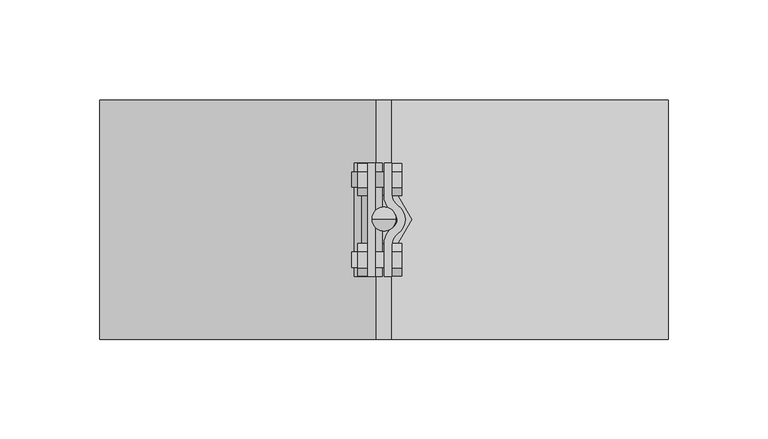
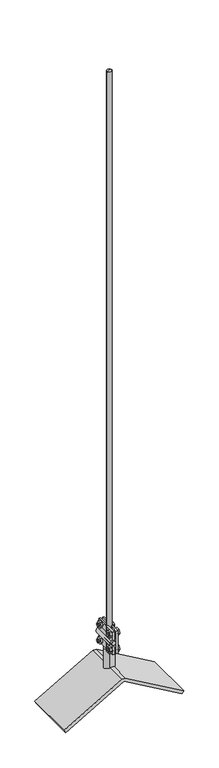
"""IFC4 building model written with IfcOpenShell, lengths in millimetres: proxy geometry, КНС_МолниеприемникКоньковыйСУгловымЗажимом_DKC : NL6150_Алюминий_1.5м."""

from ifc_helpers import new_model, si_unit, point, frame, frame_2d, origin, origin_with_axes, place, context, project, spatial, polyline, circle_curve, trimmed, segment, composite_curve, outline, extrude, faceted_brep, source, transform, mapped, element, save
from ifc_brep_helpers import plane_surface, cylinder_surface, revolved_surface, advanced_brep


def security_devices_5422cca0(model_context):
    return source(origin(), model_context, "Body", "SolidModel", [
        extrude(outline(composite_curve([segment(trimmed(circle_curve(frame_2d((10.789241, 12.6812156)), 6.789241), [point((4.0, 12.6812156))], [point((6.8983492, 7.1175159))], True, "CARTESIAN"), True, "CONTINUOUS"), segment(trimmed(circle_curve(frame_2d((1.920819, 0.0)), 8.6853232), [point((6.8983492, 7.1175159))], [point((6.9859541, -7.0554409))], False, "CARTESIAN"), True, "CONTINUOUS"), segment(trimmed(circle_curve(frame_2d((11.1637095, -12.8748131)), 7.1637095), [point((6.9859541, -7.0554409))], [point((4.0, -12.8748131))], True, "CARTESIAN"), True, "CONTINUOUS"), segment(polyline([(4.0, -12.8748131), (4.0, -28.5), (0.0, -28.5), (0.0, -12.5161006)]), True, "CONTINUOUS"), segment(trimmed(circle_curve(frame_2d((10.4743481, -12.5161006)), 10.4743481), [point((0.0, -12.5161006))], [point((4.5644151, -3.8682881))], False, "CARTESIAN"), True, "CONTINUOUS"), segment(trimmed(circle_curve(frame_2d((1.920819, 0.0)), 4.6853232), [point((4.5644151, -3.8682881))], [point((4.4330311, 3.954876))], True, "CARTESIAN"), True, "CONTINUOUS"), segment(trimmed(circle_curve(frame_2d((9.5578104, 12.0226128)), 9.5578104), [point((4.4330311, 3.954876))], [point((0.0, 12.0226128))], False, "CARTESIAN"), True, "CONTINUOUS"), segment(polyline([(0.0, 12.0226128), (0.0, 28.5), (4.0, 28.5), (4.0, 12.6812156)]), True, "CONTINUOUS")], self_intersect=False)), frame((0.0, 0.0, 50.0), z_axis=(0.0, 0.0, 1.0), x_axis=(1.0, 0.0, 0.0)), (0.0, 0.0, 1.0), 57.0),
        extrude(outline(polyline([(28.2458472, 58.3748106), (24.1930385, 51.3551401), (16.0874212, 51.3551401), (12.0346126, 58.3748106), (16.0874212, 65.3944811), (24.1930385, 65.3944811), (28.2458472, 58.3748106)])), frame((-13.0687052, 0.0, 0.0), z_axis=(1.0, 0.0, 0.0), x_axis=(0.0, 1.0, 0.0)), (0.0, 0.0, 1.0), 4.795819),
        extrude(outline(polyline([(-28.2458472, 58.3748106), (-24.1930385, 65.3944811), (-16.0874212, 65.3944811), (-12.0346126, 58.3748106), (-16.0874212, 51.3551401), (-24.1930385, 51.3551401), (-28.2458472, 58.3748106)])), frame((-13.0687052, 0.0, 0.0), z_axis=(1.0, 0.0, 0.0), x_axis=(0.0, 1.0, 0.0)), (0.0, 0.0, 1.0), 4.795819),
        extrude(outline(polyline([(28.2458472, 98.6251894), (24.1930385, 91.6055189), (16.0874212, 91.6055189), (12.0346126, 98.6251894), (16.0874212, 105.6448599), (24.1930385, 105.6448599), (28.2458472, 98.6251894)])), frame((-13.0687052, 0.0, 0.0), z_axis=(1.0, 0.0, 0.0), x_axis=(0.0, 1.0, 0.0)), (0.0, 0.0, 1.0), 4.795819),
        extrude(outline(polyline([(-28.2458472, 98.6251894), (-24.1930385, 105.6448599), (-16.0874212, 105.6448599), (-12.0346126, 98.6251894), (-16.0874212, 91.6055189), (-24.1930385, 91.6055189), (-28.2458472, 98.6251894)])), frame((-13.0687052, 0.0, 0.0), z_axis=(1.0, 0.0, 0.0), x_axis=(0.0, 1.0, 0.0)), (0.0, 0.0, 1.0), 4.795819),
        advanced_brep(
        [(4.0, -16.3433514, 58.34375), (4.0, -23.9475129, 58.34375), (4.0, -20.1454322, 58.34375), (-16.204181, -16.3433514, 58.34375), (-16.204181, -23.9475129, 58.34375), (-16.204181, -20.1454322, 58.34375)],
        [
            (0, 1, circle_curve(frame((4.0, -20.1454322, 58.34375), z_axis=(1.0, 0.0, 0.0), x_axis=(0.0, -1.0, 0.0)), 3.8020807)),
            (1, 2),
            (2, 0),
            (1, 0, circle_curve(frame((4.0, -20.1454322, 58.34375), z_axis=(1.0, 0.0, 0.0), x_axis=(0.0, -1.0, 0.0)), 3.8020807)),
            (3, 4, circle_curve(frame((-16.204181, -20.1454322, 58.34375), z_axis=(1.0, 0.0, 0.0), x_axis=(0.0, -1.0, 0.0)), 3.8020807)),
            (4, 1),
            (0, 3),
            (4, 3, circle_curve(frame((-16.204181, -20.1454322, 58.34375), z_axis=(1.0, 0.0, 0.0), x_axis=(0.0, -1.0, 0.0)), 3.8020807)),
            (5, 4),
            (3, 5),
        ],
        [
            plane_surface(frame((4.0, -20.1454322, 58.34375), z_axis=(1.0, 0.0, 0.0), x_axis=(0.0, -1.0, 0.0))),
            cylinder_surface(frame((-3.0634893, -20.1454322, 58.34375), z_axis=(-1.0, 0.0, 0.0), x_axis=(0.0, -1.0, 0.0)), 3.8020807),
            plane_surface(frame((-16.204181, -20.1454322, 58.34375), z_axis=(-1.0, 0.0, 0.0), x_axis=(0.0, -1.0, 0.0))),
        ],
        [
            (0, [[1, 2, 3]]),
            (0, [[4, -3, -2]]),
            (1, [[5, 6, -1, 7]]),
            (1, [[8, -7, -4, -6]]),
            (2, [[9, -5, 10]]),
            (2, [[-10, -8, -9]]),
        ],
    ),
        advanced_brep(
        [(4.0, 20.0282447, 58.34375), (4.0, 23.7994972, 58.34375), (4.0, 16.2569922, 58.34375), (-16.204181, 23.7994972, 58.34375), (-16.204181, 16.2569922, 58.34375), (-16.204181, 20.0282447, 58.34375)],
        [
            (0, 1),
            (1, 2, circle_curve(frame((4.0, 20.0282447, 58.34375), z_axis=(1.0, 0.0, 0.0), x_axis=(0.0, 1.0, 0.0)), 3.7712525)),
            (2, 0),
            (2, 1, circle_curve(frame((4.0, 20.0282447, 58.34375), z_axis=(1.0, 0.0, 0.0), x_axis=(0.0, 1.0, 0.0)), 3.7712525)),
            (1, 3),
            (3, 4, circle_curve(frame((-16.204181, 20.0282447, 58.34375), z_axis=(1.0, 0.0, 0.0), x_axis=(0.0, 1.0, 0.0)), 3.7712525)),
            (4, 2),
            (4, 3, circle_curve(frame((-16.204181, 20.0282447, 58.34375), z_axis=(1.0, 0.0, 0.0), x_axis=(0.0, 1.0, 0.0)), 3.7712525)),
            (3, 5),
            (5, 4),
        ],
        [
            plane_surface(frame((4.0, 20.0282447, 58.34375), z_axis=(1.0, 0.0, 0.0), x_axis=(0.0, 1.0, 0.0))),
            cylinder_surface(frame((-3.0634893, 20.0282447, 58.34375), z_axis=(1.0, 0.0, 0.0), x_axis=(0.0, 1.0, 0.0)), 3.7712525),
            plane_surface(frame((-16.204181, 20.0282447, 58.34375), z_axis=(-1.0, 0.0, 0.0), x_axis=(0.0, 1.0, 0.0))),
        ],
        [
            (0, [[1, 2, 3]]),
            (0, [[-3, 4, -1]]),
            (1, [[-2, 5, 6, 7]]),
            (1, [[-4, -7, 8, -5]]),
            (2, [[-6, 9, 10]]),
            (2, [[-8, -10, -9]]),
        ],
    ),
        advanced_brep(
        [(4.0, -20.1454322, 98.65625), (4.0, -23.9475129, 98.65625), (4.0, -16.3433514, 98.65625), (-16.204181, -23.9475129, 98.65625), (-16.204181, -16.3433514, 98.65625), (-16.204181, -20.1454322, 98.65625)],
        [
            (0, 1),
            (1, 2, circle_curve(frame((4.0, -20.1454322, 98.65625), z_axis=(1.0, 0.0, 0.0), x_axis=(0.0, -1.0, 0.0)), 3.8020807)),
            (2, 0),
            (2, 1, circle_curve(frame((4.0, -20.1454322, 98.65625), z_axis=(1.0, 0.0, 0.0), x_axis=(0.0, -1.0, 0.0)), 3.8020807)),
            (1, 3),
            (3, 4, circle_curve(frame((-16.204181, -20.1454322, 98.65625), z_axis=(1.0, 0.0, 0.0), x_axis=(0.0, -1.0, 0.0)), 3.8020807)),
            (4, 2),
            (4, 3, circle_curve(frame((-16.204181, -20.1454322, 98.65625), z_axis=(1.0, 0.0, 0.0), x_axis=(0.0, -1.0, 0.0)), 3.8020807)),
            (3, 5),
            (5, 4),
        ],
        [
            plane_surface(frame((4.0, -20.1454322, 98.65625), z_axis=(1.0, 0.0, 0.0), x_axis=(0.0, -1.0, 0.0))),
            cylinder_surface(frame((-3.0634893, -20.1454322, 98.65625), z_axis=(1.0, 0.0, 0.0), x_axis=(0.0, -1.0, 0.0)), 3.8020807),
            plane_surface(frame((-16.204181, -20.1454322, 98.65625), z_axis=(-1.0, 0.0, 0.0), x_axis=(0.0, -1.0, 0.0))),
        ],
        [
            (0, [[1, 2, 3]]),
            (0, [[-3, 4, -1]]),
            (1, [[-2, 5, 6, 7]]),
            (1, [[-4, -7, 8, -5]]),
            (2, [[-6, 9, 10]]),
            (2, [[-8, -10, -9]]),
        ],
    ),
        advanced_brep(
        [(4.0, 16.2569922, 98.65625), (4.0, 23.7994972, 98.65625), (4.0, 20.0282447, 98.65625), (-16.204181, 16.2569922, 98.65625), (-16.204181, 23.7994972, 98.65625), (-16.204181, 20.0282447, 98.65625)],
        [
            (0, 1, circle_curve(frame((4.0, 20.0282447, 98.65625), z_axis=(1.0, 0.0, 0.0), x_axis=(0.0, 1.0, 0.0)), 3.7712525)),
            (1, 2),
            (2, 0),
            (1, 0, circle_curve(frame((4.0, 20.0282447, 98.65625), z_axis=(1.0, 0.0, 0.0), x_axis=(0.0, 1.0, 0.0)), 3.7712525)),
            (3, 4, circle_curve(frame((-16.204181, 20.0282447, 98.65625), z_axis=(1.0, 0.0, 0.0), x_axis=(0.0, 1.0, 0.0)), 3.7712525)),
            (4, 1),
            (0, 3),
            (4, 3, circle_curve(frame((-16.204181, 20.0282447, 98.65625), z_axis=(1.0, 0.0, 0.0), x_axis=(0.0, 1.0, 0.0)), 3.7712525)),
            (5, 4),
            (3, 5),
        ],
        [
            plane_surface(frame((4.0, 20.0282447, 98.65625), z_axis=(1.0, 0.0, 0.0), x_axis=(0.0, 1.0, 0.0))),
            cylinder_surface(frame((-3.0634893, 20.0282447, 98.65625), z_axis=(-1.0, 0.0, 0.0), x_axis=(0.0, 1.0, 0.0)), 3.7712525),
            plane_surface(frame((-16.204181, 20.0282447, 98.65625), z_axis=(-1.0, 0.0, 0.0), x_axis=(0.0, 1.0, 0.0))),
        ],
        [
            (0, [[1, 2, 3]]),
            (0, [[4, -3, -2]]),
            (1, [[5, 6, -1, 7]]),
            (1, [[8, -7, -4, -6]]),
            (2, [[9, -5, 10]]),
            (2, [[-10, -8, -9]]),
        ],
    ),
        extrude(outline(polyline([(28.2458472, 58.3748106), (24.1930385, 51.3551401), (16.0874212, 51.3551401), (12.0346126, 58.3748106), (16.0874212, 65.3944811), (24.1930385, 65.3944811), (28.2458472, 58.3748106)])), frame((4.0, 0.0, 0.0), z_axis=(1.0, 0.0, 0.0), x_axis=(0.0, 1.0, 0.0)), (0.0, 0.0, 1.0), 4.795819),
        extrude(outline(polyline([(-28.2458472, 58.3748106), (-24.1930385, 65.3944811), (-16.0874212, 65.3944811), (-12.0346126, 58.3748106), (-16.0874212, 51.3551401), (-24.1930385, 51.3551401), (-28.2458472, 58.3748106)])), frame((4.0, 0.0, 0.0), z_axis=(1.0, 0.0, 0.0), x_axis=(0.0, 1.0, 0.0)), (0.0, 0.0, 1.0), 4.795819),
        extrude(outline(polyline([(28.2458472, 98.6251894), (24.1930385, 91.6055189), (16.0874212, 91.6055189), (12.0346126, 98.6251894), (16.0874212, 105.6448599), (24.1930385, 105.6448599), (28.2458472, 98.6251894)])), frame((4.0, 0.0, 0.0), z_axis=(1.0, 0.0, 0.0), x_axis=(0.0, 1.0, 0.0)), (0.0, 0.0, 1.0), 4.795819),
        extrude(outline(polyline([(-28.2458472, 98.6251894), (-24.1930385, 105.6448599), (-16.0874212, 105.6448599), (-12.0346126, 98.6251894), (-16.0874212, 91.6055189), (-24.1930385, 91.6055189), (-28.2458472, 98.6251894)])), frame((4.0, 0.0, 0.0), z_axis=(1.0, 0.0, 0.0), x_axis=(0.0, 1.0, 0.0)), (0.0, 0.0, 1.0), 4.795819),
        extrude(outline(composite_curve([segment(trimmed(circle_curve(frame_2d((91.1812156, -15.0621272)), 6.789241), [point((91.1812156, -8.2728862))], [point((85.6175159, -11.1712355))], True, "CARTESIAN"), True, "CONTINUOUS"), segment(trimmed(circle_curve(frame_2d((78.5, -6.1937052)), 8.6853232), [point((85.6175159, -11.1712355))], [point((71.4445591, -11.2588403))], False, "CARTESIAN"), True, "CONTINUOUS"), segment(trimmed(circle_curve(frame_2d((65.6251869, -15.4365957)), 7.1637095), [point((71.4445591, -11.2588403))], [point((65.6251869, -8.2728862))], True, "CARTESIAN"), True, "CONTINUOUS"), segment(polyline([(65.6251869, -8.2728862), (50.0, -8.2728862), (50.0, -4.2728862), (65.9838994, -4.2728862)]), True, "CONTINUOUS"), segment(trimmed(circle_curve(frame_2d((65.9838994, -14.7472343)), 10.4743481), [point((65.9838994, -4.2728862))], [point((74.6317119, -8.8373014))], False, "CARTESIAN"), True, "CONTINUOUS"), segment(trimmed(circle_curve(frame_2d((78.5, -6.1937052)), 4.6853232), [point((74.6317119, -8.8373014))], [point((82.454876, -8.7059174))], True, "CARTESIAN"), True, "CONTINUOUS"), segment(trimmed(circle_curve(frame_2d((90.5226128, -13.8306966)), 9.5578104), [point((82.454876, -8.7059174))], [point((90.5226128, -4.2728862))], False, "CARTESIAN"), True, "CONTINUOUS"), segment(polyline([(90.5226128, -4.2728862), (107.0, -4.2728862), (107.0, -8.2728862), (91.1812156, -8.2728862)]), True, "CONTINUOUS")], self_intersect=False)), frame((0.0, -28.5, 0.0), z_axis=(0.0, 1.0, 0.0), x_axis=(0.0, 0.0, 1.0)), (0.0, 0.0, 1.0), 57.0),
        advanced_brep(
        [(-6.0, 0.0, 0.0), (6.0, 0.0, 0.0), (6.0, 0.0, 1496.5358984), (-6.0, 0.0, 1496.5358984), (0.0, 0.0, 1500.0)],
        [
            (0, 1, circle_curve(frame((0.0, 0.0, 0.0), z_axis=(0.0, 0.0, -1.0), x_axis=(1.0, 0.0, 0.0)), 6.0)),
            (1, 0, circle_curve(frame((0.0, 0.0, 0.0), z_axis=(0.0, 0.0, -1.0), x_axis=(1.0, 0.0, 0.0)), 6.0)),
            (1, 2),
            (2, 3, circle_curve(frame((0.0, 0.0, 1496.5358984), z_axis=(0.0, 0.0, -1.0), x_axis=(1.0, 0.0, 0.0)), 6.0)),
            (3, 0),
            (3, 2, circle_curve(frame((0.0, 0.0, 1496.5358984), z_axis=(0.0, 0.0, -1.0), x_axis=(1.0, 0.0, 0.0)), 6.0)),
            (3, 4),
            (4, 2),
        ],
        [
            plane_surface(frame((6.0, 0.0, 0.0), z_axis=(0.0, 0.0, -1.0), x_axis=(0.0, -1.0, 0.0))),
            cylinder_surface(origin_with_axes(), 6.0),
            revolved_surface(polyline([(12.9903811, 0.0, 1492.5), (0.0, 0.0, 1500.0)]), (0.0, 0.0, 4438.9550208), (0.0, 0.0, 1.0)),
        ],
        [
            (0, [[1, 2]]),
            (1, [[-2, 3, 4, 5]]),
            (1, [[-1, -5, 6, -3]]),
            (2, [[7, 8, -6]]),
            (2, [[-7, -4, -8]]),
        ],
    ),
        extrude(outline(composite_curve([segment(trimmed(circle_curve(frame_2d((78.5786753, -5.8783678)), 5.0), [point((78.5786753, -10.8783678))], [point((78.5786753, -0.8783678))], False, "CARTESIAN"), True, "CONTINUOUS"), segment(trimmed(circle_curve(frame_2d((78.5786753, -5.8783678)), 5.0), [point((78.5786753, -0.8783678))], [point((78.5786753, -10.8783678))], False, "CARTESIAN"), True, "CONTINUOUS")], self_intersect=False)), frame((0.0, -28.5, 0.0), z_axis=(0.0, 1.0, 0.0), x_axis=(0.0, 0.0, 1.0)), (0.0, 0.0, 1.0), 57.0),
        faceted_brep([(-138.5640646, -60.0, -80.0), (0.0, -60.0, 0.0), (138.5640646, -60.0, -80.0), (142.5640646, -60.0, -73.0717968), (4.0, -60.0, 6.9282032), (-4.0, -60.0, 6.9282032), (-142.5640646, -60.0, -73.0717968), (-138.5640646, 60.0, -80.0), (-142.5640646, 60.0, -73.0717968), (-4.0, 60.0, 6.9282032), (4.0, 60.0, 6.9282032), (142.5640646, 60.0, -73.0717968), (138.5640646, 60.0, -80.0), (0.0, 60.0, 0.0), (0.0, 12.0, 0.0), (0.0, -12.0, 0.0), (4.0, 12.0, 6.9282032), (6.9282032, 12.0, 5.2376043), (13.8564065, 0.0, 1.2376043), (6.9282032, -12.0, 5.2376043), (4.0, -12.0, 6.9282032), (-4.0, -12.0, 6.9282032), (-4.0, 12.0, 6.9282032), (-6.9282032, -12.0, 5.2376043), (-13.8564065, 0.0, 1.2376043), (-6.9282032, 12.0, 5.2376043), (-13.8564065, 0.0, 50.0), (-6.9282032, -12.0, 50.0), (6.9282032, -12.0, 50.0), (13.8564065, 0.0, 50.0), (6.9282032, 12.0, 50.0), (-6.9282032, 12.0, 50.0)], [[[0, 1, 2, 3, 4, 5, 6]], [[7, 8, 9, 10, 11, 12, 13]], [[1, 0, 7, 13, 14, 15]], [[2, 1, 15, 14, 13, 12]], [[3, 2, 12, 11]], [[4, 3, 11, 10, 16, 17, 18, 19, 20]], [[5, 4, 20, 21]], [[10, 9, 22, 16]], [[6, 5, 21, 23, 24, 25, 22, 9, 8]], [[0, 6, 8, 7]], [[26, 27, 28, 29, 30, 31]], [[27, 26, 24, 23]], [[28, 27, 23, 21, 20, 19]], [[29, 28, 19, 18]], [[30, 29, 18, 17]], [[31, 30, 17, 16, 22, 25]], [[26, 31, 25, 24]]]),
    ])


if __name__ == "__main__":
    model = new_model("IFC4")
    model_context = context("Model", 3, world=origin())
    ifc_project = project(units=[si_unit("LENGTHUNIT", "METRE", prefix="MILLI")], contexts=[model_context])
    site = spatial("IfcSite", under=ifc_project)
    building = spatial("IfcBuilding", under=site)
    placement = place(None, origin())
    security_devices_shape = security_devices_5422cca0(model_context)
    element("IfcBuildingElementProxy", 1, Name="КНС_МолниеприемникКоньковыйСУгловымЗажимом_DKC : NL6150_Алюминий_1.5м", ObjectType="КНС_МолниеприемникКоньковыйСУгловымЗажимом_DKC : NL6150_Алюминий_1.5м", at=placement, inside=building, context=model_context, shape_type="MappedRepresentation", body=[
        mapped(security_devices_shape, transform((0.0, 0.0, 0.0), x_axis=(1.0, 0.0, 0.0), y_axis=(0.0, 1.0, 0.0), z_axis=(0.0, 0.0, 1.0))),
    ])
    save(model, "model.ifc")
